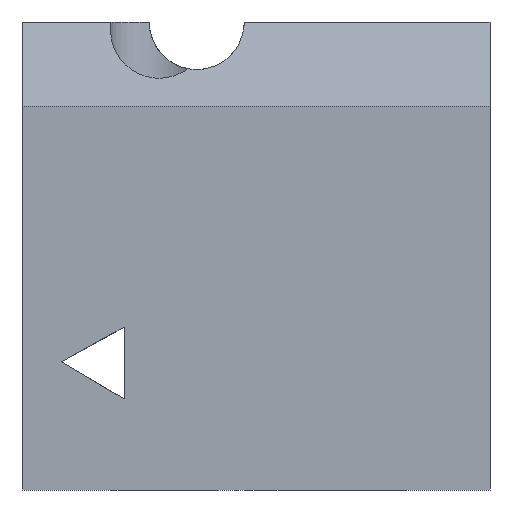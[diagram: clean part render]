
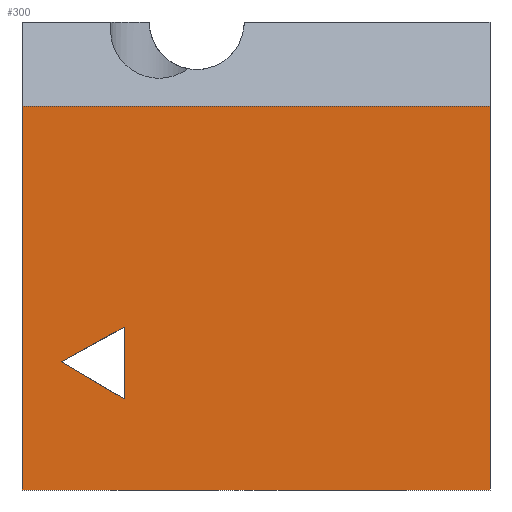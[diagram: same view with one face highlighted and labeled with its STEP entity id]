
A CAD part, front view. The second image highlights one B-rep face of the part: STEP entity #300.
In plain terms, the highlighted planar face has unit normal (0, -1, 0).
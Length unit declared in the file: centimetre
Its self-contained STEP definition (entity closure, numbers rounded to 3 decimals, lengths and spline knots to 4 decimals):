
#65 = VECTOR ( 'NONE', #872, 100. ) ;
#84 = EDGE_CURVE ( 'NONE', #164, #901, #1614, .T. ) ;
#150 = FACE_OUTER_BOUND ( 'NONE', #1363, .T. ) ;
#152 = EDGE_CURVE ( 'NONE', #1608, #164, #1651, .T. ) ;
#164 = VERTEX_POINT ( 'NONE', #737 ) ;
#183 = VECTOR ( 'NONE', #1177, 100. ) ;
#245 = CARTESIAN_POINT ( 'NONE',  ( 0., 0., 0. ) ) ;
#297 = CARTESIAN_POINT ( 'NONE',  ( 0., 0., 1000. ) ) ;
#300 = ADVANCED_FACE ( 'NONE', ( #943, #150 ), #669, .F. ) ;
#302 = VERTEX_POINT ( 'NONE', #1070 ) ;
#303 = ORIENTED_EDGE ( 'NONE', *, *, #471, .T. ) ;
#361 = CARTESIAN_POINT ( 'NONE',  ( 1000., 0., 820.343 ) ) ;
#395 = AXIS2_PLACEMENT_3D ( 'NONE', #297, #961, #694 ) ;
#421 = VECTOR ( 'NONE', #1249, 100. ) ;
#429 = CARTESIAN_POINT ( 'NONE',  ( 0., 0., 820.343 ) ) ;
#471 = EDGE_CURVE ( 'NONE', #1585, #302, #1136, .T. ) ;
#481 = ORIENTED_EDGE ( 'NONE', *, *, #152, .F. ) ;
#540 = CARTESIAN_POINT ( 'NONE',  ( 0., 0., 820.343 ) ) ;
#629 = ORIENTED_EDGE ( 'NONE', *, *, #1315, .F. ) ;
#633 = CARTESIAN_POINT ( 'NONE',  ( 83.6871, 0., 273.9372 ) ) ;
#669 = PLANE ( 'NONE',  #395 ) ;
#690 = ORIENTED_EDGE ( 'NONE', *, *, #1184, .F. ) ;
#694 = DIRECTION ( 'NONE',  ( 0., 0., 1. ) ) ;
#704 = EDGE_CURVE ( 'NONE', #302, #1513, #797, .T. ) ;
#737 = CARTESIAN_POINT ( 'NONE',  ( 218.1485, 0., 347.9987 ) ) ;
#760 = LINE ( 'NONE', #1537, #183 ) ;
#797 = LINE ( 'NONE', #245, #1027 ) ;
#860 = CARTESIAN_POINT ( 'NONE',  ( 218.1485, 0., 347.9987 ) ) ;
#872 = DIRECTION ( 'NONE',  ( 0., 0., 1. ) ) ;
#885 = VECTOR ( 'NONE', #929, 100. ) ;
#901 = VERTEX_POINT ( 'NONE', #633 ) ;
#905 = LINE ( 'NONE', #429, #1139 ) ;
#928 = DIRECTION ( 'NONE',  ( -1., 0., 0. ) ) ;
#929 = DIRECTION ( 'NONE',  ( 0., 0., -1. ) ) ;
#943 = FACE_BOUND ( 'NONE', #1057, .T. ) ;
#961 = DIRECTION ( 'NONE',  ( 0., 1., 0. ) ) ;
#1027 = VECTOR ( 'NONE', #1306, 100. ) ;
#1057 = EDGE_LOOP ( 'NONE', ( #1419, #481, #690 ) ) ;
#1070 = CARTESIAN_POINT ( 'NONE',  ( 0., 0., 0. ) ) ;
#1136 = LINE ( 'NONE', #1261, #1653 ) ;
#1139 = VECTOR ( 'NONE', #928, 100. ) ;
#1177 = DIRECTION ( 'NONE',  ( 0.861, 0., -0.509 ) ) ;
#1184 = EDGE_CURVE ( 'NONE', #901, #1608, #760, .T. ) ;
#1249 = DIRECTION ( 'NONE',  ( -0.876, 0., -0.482 ) ) ;
#1261 = CARTESIAN_POINT ( 'NONE',  ( 0., 0., 1000. ) ) ;
#1306 = DIRECTION ( 'NONE',  ( 1., 0., 0. ) ) ;
#1315 = EDGE_CURVE ( 'NONE', #1473, #1513, #1456, .T. ) ;
#1363 = EDGE_LOOP ( 'NONE', ( #629, #1527, #303, #1597 ) ) ;
#1419 = ORIENTED_EDGE ( 'NONE', *, *, #84, .F. ) ;
#1456 = LINE ( 'NONE', #1596, #885 ) ;
#1473 = VERTEX_POINT ( 'NONE', #361 ) ;
#1497 = DIRECTION ( 'NONE',  ( 0., 0., -1. ) ) ;
#1512 = EDGE_CURVE ( 'NONE', #1473, #1585, #905, .T. ) ;
#1513 = VERTEX_POINT ( 'NONE', #1567 ) ;
#1527 = ORIENTED_EDGE ( 'NONE', *, *, #1512, .T. ) ;
#1536 = CARTESIAN_POINT ( 'NONE',  ( 218.1485, 0., 194.5209 ) ) ;
#1537 = CARTESIAN_POINT ( 'NONE',  ( 83.6871, 0., 273.9372 ) ) ;
#1567 = CARTESIAN_POINT ( 'NONE',  ( 1000., 0., 0. ) ) ;
#1574 = CARTESIAN_POINT ( 'NONE',  ( 218.1485, 0., 194.5209 ) ) ;
#1585 = VERTEX_POINT ( 'NONE', #540 ) ;
#1596 = CARTESIAN_POINT ( 'NONE',  ( 1000., 0., 1000. ) ) ;
#1597 = ORIENTED_EDGE ( 'NONE', *, *, #704, .T. ) ;
#1608 = VERTEX_POINT ( 'NONE', #1574 ) ;
#1614 = LINE ( 'NONE', #860, #421 ) ;
#1651 = LINE ( 'NONE', #1536, #65 ) ;
#1653 = VECTOR ( 'NONE', #1497, 100. ) ;
